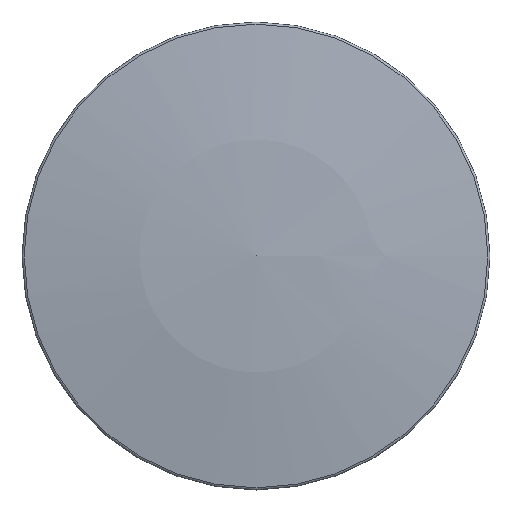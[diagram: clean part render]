
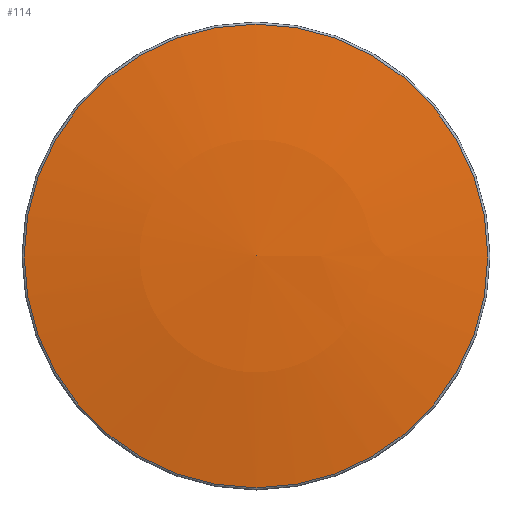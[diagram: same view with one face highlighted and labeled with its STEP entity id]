
A CAD part, top view. The second image highlights one B-rep face of the part: STEP entity #114.
In plain terms, the highlighted spherical face has radius 536.695 mm.
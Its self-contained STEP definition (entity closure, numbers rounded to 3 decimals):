
#28=FACE_OUTER_BOUND($,#38,.T.);
#38=EDGE_LOOP($,(#83));
#56=CIRCLE($,#128,89.166);
#65=VERTEX_POINT($,#188);
#74=EDGE_CURVE($,#65,#65,#56,.T.);
#83=ORIENTED_EDGE($,*,*,#74,.F.);
#101=SPHERICAL_SURFACE($,#127,536.695);
#114=ADVANCED_FACE($,(#28),#101,.T.);
#127=AXIS2_PLACEMENT_3D($,#187,#148,#149);
#128=AXIS2_PLACEMENT_3D($,#189,#150,#151);
#148=DIRECTION('center_axis',(0.,0.,1.));
#149=DIRECTION('ref_axis',(1.,0.,0.));
#150=DIRECTION('center_axis',(0.,0.,-1.));
#151=DIRECTION('ref_axis',(1.,0.,0.));
#187=CARTESIAN_POINT('Origin',(0.,0.,-457.395));
#188=CARTESIAN_POINT('',(0.,89.166,71.841));
#189=CARTESIAN_POINT('Origin',(0.,0.,71.841));
